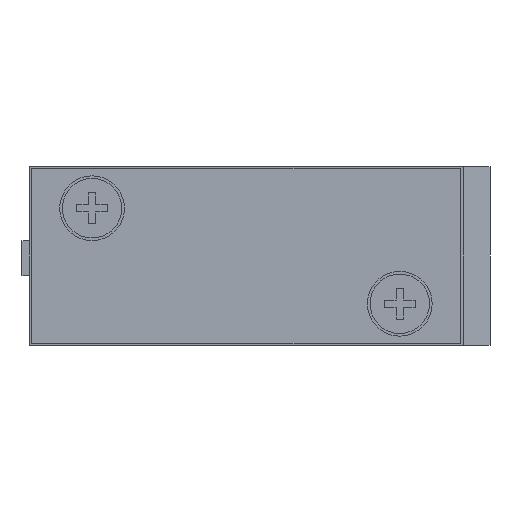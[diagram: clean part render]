
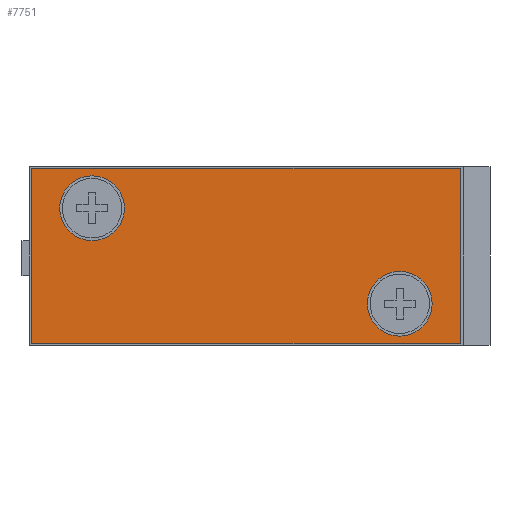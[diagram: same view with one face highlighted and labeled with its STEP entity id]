
A CAD part, left-side view. The second image highlights one B-rep face of the part: STEP entity #7751.
In plain terms, the highlighted planar face has unit normal (-1, 0, 0).
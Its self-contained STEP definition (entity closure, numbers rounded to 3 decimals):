
#1393=DIRECTION('',(0.,-1.,0.));
#1394=VECTOR('',#1393,40.4);
#1395=CARTESIAN_POINT('',(-43.,20.2,-8.25));
#1396=LINE('',#1395,#1394);
#1400=DIRECTION('',(0.,0.,-1.));
#1401=VECTOR('',#1400,16.5);
#1402=CARTESIAN_POINT('',(-43.,20.2,8.25));
#1403=LINE('',#1402,#1401);
#1407=DIRECTION('',(0.,1.,0.));
#1408=VECTOR('',#1407,40.4);
#1409=CARTESIAN_POINT('',(-43.,-20.2,8.25));
#1410=LINE('',#1409,#1408);
#1414=DIRECTION('',(0.,0.,1.));
#1415=VECTOR('',#1414,16.5);
#1416=CARTESIAN_POINT('',(-43.,-20.2,-8.25));
#1417=LINE('',#1416,#1415);
#1421=CARTESIAN_POINT('',(-43.,14.5,4.5));
#1422=DIRECTION('',(-1.,0.,0.));
#1423=DIRECTION('',(0.,0.,1.));
#1424=AXIS2_PLACEMENT_3D('',#1421,#1422,#1423);
#1429=CARTESIAN_POINT('',(-43.,14.5,4.5));
#1430=DIRECTION('',(-1.,0.,0.));
#1431=DIRECTION('',(0.,0.,-1.));
#1432=AXIS2_PLACEMENT_3D('',#1429,#1430,#1431);
#1437=CARTESIAN_POINT('',(-43.,-14.5,-4.5));
#1438=DIRECTION('',(-1.,0.,0.));
#1439=DIRECTION('',(0.,0.,1.));
#1440=AXIS2_PLACEMENT_3D('',#1437,#1438,#1439);
#1445=CARTESIAN_POINT('',(-43.,-14.5,-4.5));
#1446=DIRECTION('',(-1.,0.,0.));
#1447=DIRECTION('',(0.,0.,-1.));
#1448=AXIS2_PLACEMENT_3D('',#1445,#1446,#1447);
#6192=CARTESIAN_POINT('',(-43.,20.2,-8.25));
#6193=CARTESIAN_POINT('',(-43.,-20.2,-8.25));
#6194=VERTEX_POINT('',#6192);
#6195=VERTEX_POINT('',#6193);
#6196=CARTESIAN_POINT('',(-43.,-20.2,8.25));
#6197=VERTEX_POINT('',#6196);
#6198=CARTESIAN_POINT('',(-43.,20.2,8.25));
#6199=VERTEX_POINT('',#6198);
#6216=CARTESIAN_POINT('',(-43.,14.5,7.55));
#6217=CARTESIAN_POINT('',(-43.,14.5,1.45));
#6218=VERTEX_POINT('',#6216);
#6219=VERTEX_POINT('',#6217);
#6220=CARTESIAN_POINT('',(-43.,-14.5,-1.45));
#6221=CARTESIAN_POINT('',(-43.,-14.5,-7.55));
#6222=VERTEX_POINT('',#6220);
#6223=VERTEX_POINT('',#6221);
#7728=CARTESIAN_POINT('',(-43.,0.,-8.4));
#7729=DIRECTION('',(-1.,0.,0.));
#7730=DIRECTION('',(0.,0.,1.));
#7731=AXIS2_PLACEMENT_3D('',#7728,#7729,#7730);
#7732=PLANE('',#7731);
#7733=ORIENTED_EDGE('',*,*,#7632,.F.);
#7734=ORIENTED_EDGE('',*,*,#7659,.F.);
#7735=ORIENTED_EDGE('',*,*,#7685,.F.);
#7736=ORIENTED_EDGE('',*,*,#7710,.F.);
#7737=EDGE_LOOP('',(#7733,#7734,#7735,#7736));
#7738=FACE_OUTER_BOUND('',#7737,.F.);
#7740=ORIENTED_EDGE('',*,*,#7739,.T.);
#7742=ORIENTED_EDGE('',*,*,#7741,.T.);
#7743=EDGE_LOOP('',(#7740,#7742));
#7744=FACE_BOUND('',#7743,.F.);
#7746=ORIENTED_EDGE('',*,*,#7745,.T.);
#7748=ORIENTED_EDGE('',*,*,#7747,.T.);
#7749=EDGE_LOOP('',(#7746,#7748));
#7750=FACE_BOUND('',#7749,.F.);
#7751=ADVANCED_FACE('',(#7738,#7744,#7750),#7732,.T.);
#1425=CIRCLE('',#1424,3.05);
#1433=CIRCLE('',#1432,3.05);
#1441=CIRCLE('',#1440,3.05);
#1449=CIRCLE('',#1448,3.05);
#7632=EDGE_CURVE('',#6194,#6195,#1396,.T.);
#7659=EDGE_CURVE('',#6199,#6194,#1403,.T.);
#7685=EDGE_CURVE('',#6197,#6199,#1410,.T.);
#7710=EDGE_CURVE('',#6195,#6197,#1417,.T.);
#7739=EDGE_CURVE('',#6218,#6219,#1425,.T.);
#7741=EDGE_CURVE('',#6219,#6218,#1433,.T.);
#7745=EDGE_CURVE('',#6222,#6223,#1441,.T.);
#7747=EDGE_CURVE('',#6223,#6222,#1449,.T.);
